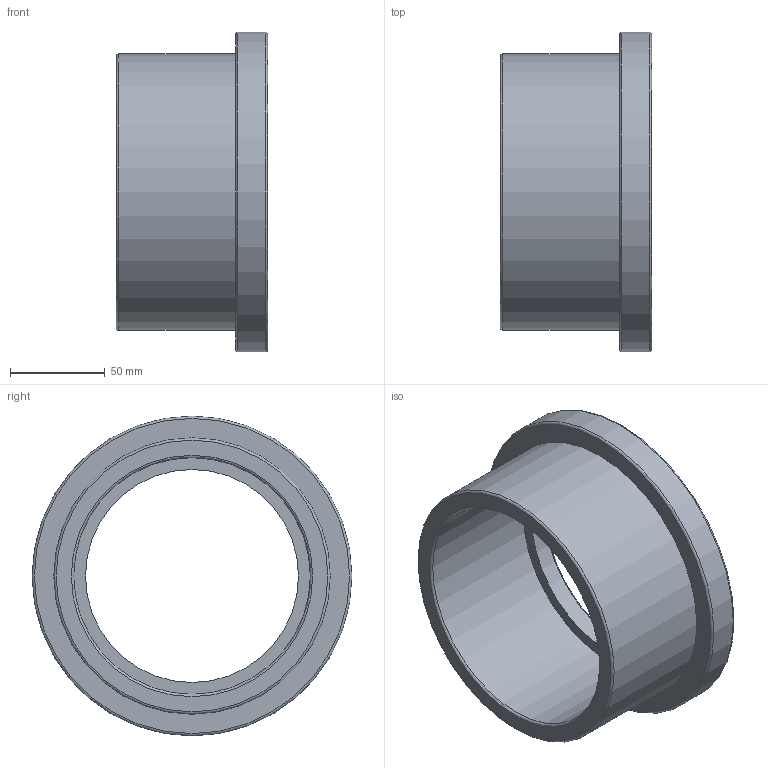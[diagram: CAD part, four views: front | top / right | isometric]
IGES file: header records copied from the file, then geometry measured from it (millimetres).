
Global section: file name: 055000125.ipt; native system: Autodesk Inventor 2015; preprocessor: unknown; author: KIM; date: 20171207.165717; units: millimetre
Bounding box: 80 x 169 x 169 mm (x, y, z)
Volume: 460086.3 mm3; surface area: 96233.8 mm2
Topology: 1 solids, 1 shells, 21 faces, 60 edges, 45 vertices
Faces by surface type: revolution 12, plane 6, cylinder 3
Full cylindrical faces by diameter (mm): 132.275 x1, 146 x1, 169 x1
